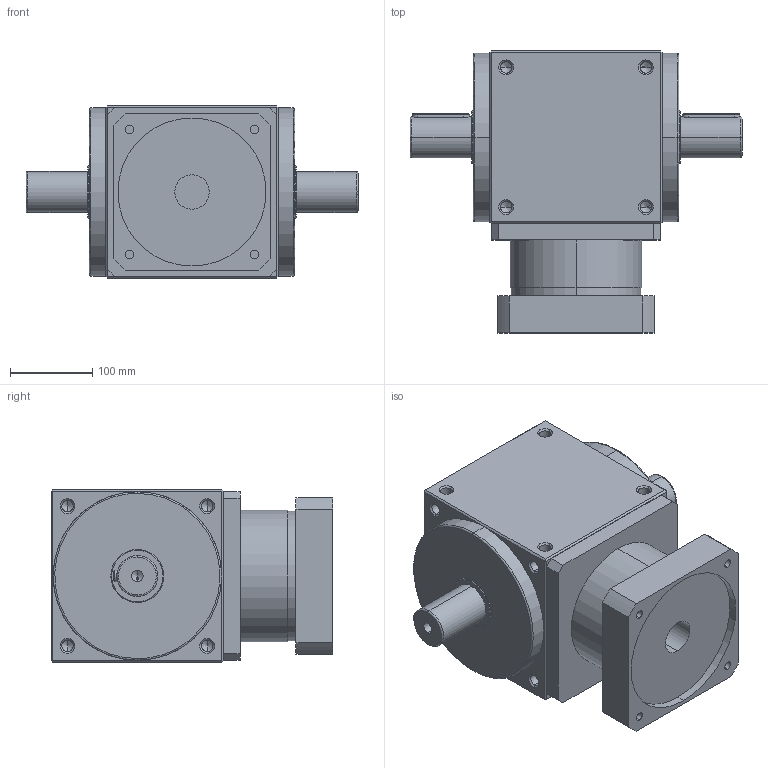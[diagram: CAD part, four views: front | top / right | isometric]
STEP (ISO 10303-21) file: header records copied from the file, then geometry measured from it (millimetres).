
FILE_DESCRIPTION (( 'STEP AP214' ), '1' );
FILE_NAME ('AT210-FL-L1--35-114.3-200-M12-SK.STEP', '2020-11-20T06:19:15', ( '微软用户' ), ( '微软中国' ), 'SwSTEP 2.0', 'SolidWorks 2014', '' );
FILE_SCHEMA (( 'AUTOMOTIVE_DESIGN' ));
Length unit declared in the file: millimetre
Products named in the file (2): AT210-FL-L1--35-114.3-200-M12-SK
Bounding box: 404 x 343 x 210 mm (x, y, z)
Volume: 14179484.7 mm3; surface area: 557409.4 mm2
Topology: 2 solids, 2 shells, 289 faces, 705 edges, 392 vertices
Faces by surface type: cylinder 122, cone 93, plane 66, bspline 8
Entity records: 11024 total; most frequent: CARTESIAN_POINT 2004, ORIENTED_EDGE 1322, DIRECTION 1321, EDGE_CURVE 661, AXIS2_PLACEMENT_3D 501, VERTEX_POINT 392, EDGE_LOOP 329, LINE 319
